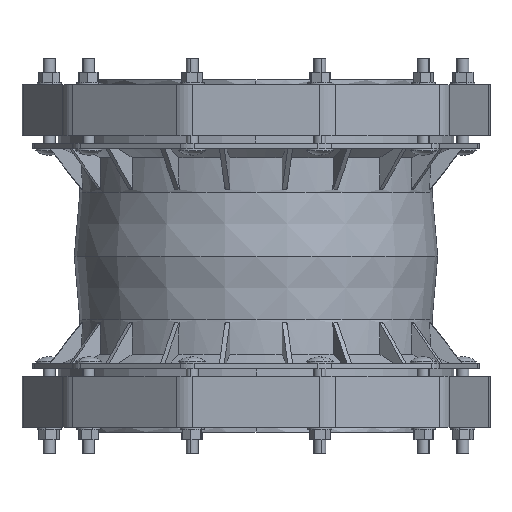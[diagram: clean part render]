
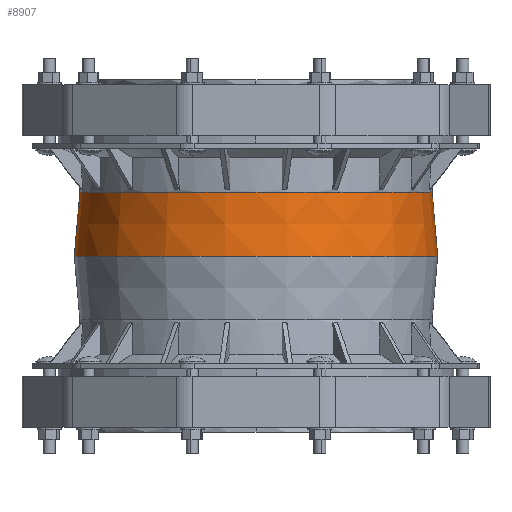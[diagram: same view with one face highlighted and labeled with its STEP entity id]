
A CAD part, left-side view. The second image highlights one B-rep face of the part: STEP entity #8907.
In plain terms, the highlighted conical face has half-angle 4.935 degrees and reference radius 237.86 mm.
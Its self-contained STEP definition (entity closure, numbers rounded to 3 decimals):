
#3348=DIRECTION('',(0.,0.086,0.996));
#3349=VECTOR('',#3348,85.316);
#3350=CARTESIAN_POINT('',(0.,-241.53,0.));
#3351=LINE('',#3350,#3349);
#3352=DIRECTION('',(0.,-0.086,0.996));
#3353=VECTOR('',#3352,85.316);
#3354=CARTESIAN_POINT('',(0.,241.53,0.));
#3355=LINE('',#3354,#3353);
#3356=CARTESIAN_POINT('',(0.,0.,0.));
#3357=DIRECTION('',(0.,0.,1.));
#3358=DIRECTION('',(0.,1.,0.));
#3359=AXIS2_PLACEMENT_3D('',#3356,#3357,#3358);
#3393=CARTESIAN_POINT('',(0.,0.,85.));
#3394=DIRECTION('',(0.,0.,1.));
#3395=DIRECTION('',(0.,1.,0.));
#3396=AXIS2_PLACEMENT_3D('',#3393,#3394,#3395);
#5137=CARTESIAN_POINT('',(0.,241.53,0.));
#5138=CARTESIAN_POINT('',(0.,-241.53,0.));
#5139=VERTEX_POINT('',#5137);
#5140=VERTEX_POINT('',#5138);
#5141=CARTESIAN_POINT('',(0.,234.19,85.));
#5142=VERTEX_POINT('',#5141);
#5143=CARTESIAN_POINT('',(0.,-234.19,85.));
#5144=VERTEX_POINT('',#5143);
#8894=CARTESIAN_POINT('',(0.,0.,42.5));
#8895=DIRECTION('',(0.,0.,-1.));
#8896=DIRECTION('',(0.,-1.,0.));
#8897=AXIS2_PLACEMENT_3D('',#8894,#8895,#8896);
#8898=CONICAL_SURFACE('',#8897,237.86,4.935);
#8900=ORIENTED_EDGE('',*,*,#8899,.F.);
#8901=ORIENTED_EDGE('',*,*,#8889,.T.);
#8903=ORIENTED_EDGE('',*,*,#8902,.T.);
#8904=ORIENTED_EDGE('',*,*,#8885,.F.);
#8905=EDGE_LOOP('',(#8900,#8901,#8903,#8904));
#8906=FACE_OUTER_BOUND('',#8905,.F.);
#8907=ADVANCED_FACE('',(#8906),#8898,.T.);
#3360=CIRCLE('',#3359,241.53);
#3397=CIRCLE('',#3396,234.19);
#8885=EDGE_CURVE('',#5140,#5144,#3351,.T.);
#8889=EDGE_CURVE('',#5139,#5142,#3355,.T.);
#8899=EDGE_CURVE('',#5139,#5140,#3360,.T.);
#8902=EDGE_CURVE('',#5142,#5144,#3397,.T.);
